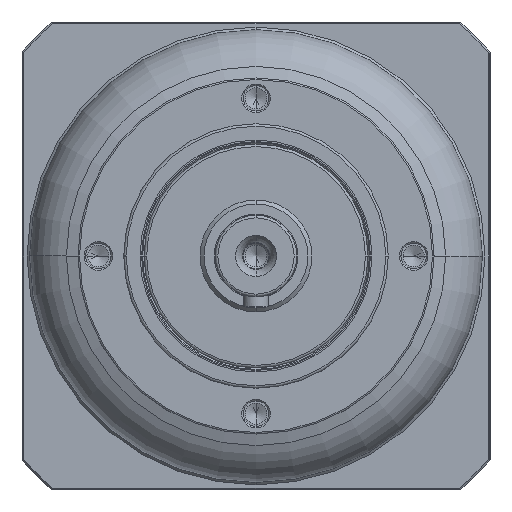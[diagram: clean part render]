
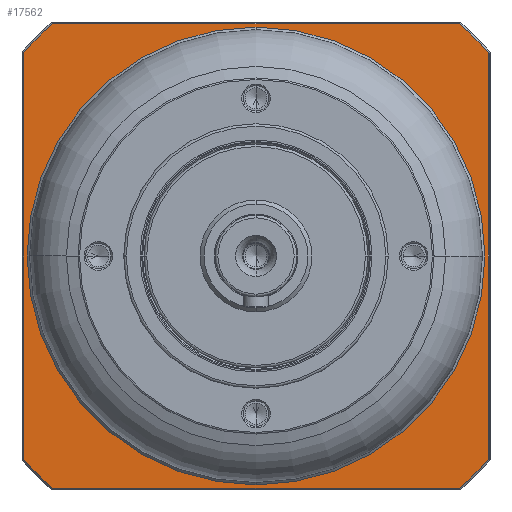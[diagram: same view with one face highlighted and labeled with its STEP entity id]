
A CAD part, left-side view. The second image highlights one B-rep face of the part: STEP entity #17562.
In plain terms, the highlighted planar face has unit normal (-1, 0, 0) as drawn and (0, 0, -1) by its records, which use the part's own axes.
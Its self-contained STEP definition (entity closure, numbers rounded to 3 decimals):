
#16457=CARTESIAN_POINT('',(0.,0.,
2.5));
#16458=DIRECTION('',(0.,0.,-1.));
#16459=DIRECTION('',(0.,-1.,0.));
#16460=AXIS2_PLACEMENT_3D('',#16457,#16458,#16459);
#16462=CARTESIAN_POINT('',(0.,0.,
2.5));
#16463=DIRECTION('',(0.,0.,-1.));
#16464=DIRECTION('',(0.,1.,0.));
#16465=AXIS2_PLACEMENT_3D('',#16462,#16463,#16464);
#16467=CARTESIAN_POINT('',(0.,0.,2.5));
#16468=DIRECTION('',(0.,0.,1.));
#16469=DIRECTION('',(-0.753,-0.658,0.));
#16470=AXIS2_PLACEMENT_3D('',#16467,#16468,#16469);
#16472=DIRECTION('',(1.,0.,0.));
#16473=VECTOR('',#16472,79.9);
#16474=CARTESIAN_POINT('',(-39.95,-45.7,
2.5));
#16475=LINE('',#16474,#16473);
#16476=CARTESIAN_POINT('',(0.,0.,2.5));
#16477=DIRECTION('',(0.,0.,1.));
#16478=DIRECTION('',(0.658,-0.753,0.));
#16479=AXIS2_PLACEMENT_3D('',#16476,#16477,#16478);
#16481=DIRECTION('',(0.,1.,0.));
#16482=VECTOR('',#16481,79.9);
#16483=CARTESIAN_POINT('',(45.7,-39.95,
2.5));
#16484=LINE('',#16483,#16482);
#16485=CARTESIAN_POINT('',(0.,0.,2.5));
#16486=DIRECTION('',(0.,0.,1.));
#16487=DIRECTION('',(0.753,0.658,0.));
#16488=AXIS2_PLACEMENT_3D('',#16485,#16486,#16487);
#16490=DIRECTION('',(-1.,0.,0.));
#16491=VECTOR('',#16490,79.9);
#16492=CARTESIAN_POINT('',(39.95,45.7,2.5));
#16493=LINE('',#16492,#16491);
#16494=CARTESIAN_POINT('',(0.,0.,2.5));
#16495=DIRECTION('',(0.,0.,1.));
#16496=DIRECTION('',(-0.658,0.753,0.));
#16497=AXIS2_PLACEMENT_3D('',#16494,#16495,#16496);
#16499=DIRECTION('',(0.,-1.,0.));
#16500=VECTOR('',#16499,79.9);
#16501=CARTESIAN_POINT('',(-45.7,39.95,
2.5));
#16502=LINE('',#16501,#16500);
#17219=CARTESIAN_POINT('',(0.,-45.,2.5));
#17220=CARTESIAN_POINT('',(0.,45.,
2.5));
#17221=VERTEX_POINT('',#17219);
#17222=VERTEX_POINT('',#17220);
#17291=CARTESIAN_POINT('',(-45.7,-39.95,2.5));
#17292=CARTESIAN_POINT('',(-39.95,-45.7,2.5));
#17293=VERTEX_POINT('',#17291);
#17294=VERTEX_POINT('',#17292);
#17299=CARTESIAN_POINT('',(39.95,-45.7,
2.5));
#17300=VERTEX_POINT('',#17299);
#17303=CARTESIAN_POINT('',(45.7,-39.95,2.5));
#17304=VERTEX_POINT('',#17303);
#17307=CARTESIAN_POINT('',(45.7,39.95,2.5));
#17308=VERTEX_POINT('',#17307);
#17311=CARTESIAN_POINT('',(39.95,45.7,2.5));
#17312=VERTEX_POINT('',#17311);
#17315=CARTESIAN_POINT('',(-39.95,45.7,
2.5));
#17316=VERTEX_POINT('',#17315);
#17321=CARTESIAN_POINT('',(-45.7,39.95,2.5));
#17322=VERTEX_POINT('',#17321);
#17534=CARTESIAN_POINT('',(0.,0.,2.5));
#17535=DIRECTION('',(0.,0.,1.));
#17536=DIRECTION('',(0.,1.,0.));
#17537=AXIS2_PLACEMENT_3D('',#17534,#17535,#17536);
#17538=PLANE('',#17537);
#17540=ORIENTED_EDGE('',*,*,#17539,.T.);
#17542=ORIENTED_EDGE('',*,*,#17541,.T.);
#17544=ORIENTED_EDGE('',*,*,#17543,.T.);
#17546=ORIENTED_EDGE('',*,*,#17545,.T.);
#17548=ORIENTED_EDGE('',*,*,#17547,.T.);
#17550=ORIENTED_EDGE('',*,*,#17549,.T.);
#17552=ORIENTED_EDGE('',*,*,#17551,.T.);
#17554=ORIENTED_EDGE('',*,*,#17553,.T.);
#17555=EDGE_LOOP('',(#17540,#17542,#17544,#17546,#17548,#17550,#17552,#17554));
#17556=FACE_OUTER_BOUND('',#17555,.F.);
#17558=ORIENTED_EDGE('',*,*,#17557,.T.);
#17559=ORIENTED_EDGE('',*,*,#17524,.T.);
#17560=EDGE_LOOP('',(#17558,#17559));
#17561=FACE_BOUND('',#17560,.F.);
#17562=ADVANCED_FACE('',(#17556,#17561),#17538,.F.);
#16461=CIRCLE('',#16460,45.);
#16466=CIRCLE('',#16465,45.);
#16471=CIRCLE('',#16470,60.7);
#16480=CIRCLE('',#16479,60.7);
#16489=CIRCLE('',#16488,60.7);
#16498=CIRCLE('',#16497,60.7);
#17524=EDGE_CURVE('',#17222,#17221,#16466,.T.);
#17539=EDGE_CURVE('',#17293,#17294,#16471,.T.);
#17541=EDGE_CURVE('',#17294,#17300,#16475,.T.);
#17543=EDGE_CURVE('',#17300,#17304,#16480,.T.);
#17545=EDGE_CURVE('',#17304,#17308,#16484,.T.);
#17547=EDGE_CURVE('',#17308,#17312,#16489,.T.);
#17549=EDGE_CURVE('',#17312,#17316,#16493,.T.);
#17551=EDGE_CURVE('',#17316,#17322,#16498,.T.);
#17553=EDGE_CURVE('',#17322,#17293,#16502,.T.);
#17557=EDGE_CURVE('',#17221,#17222,#16461,.T.);
